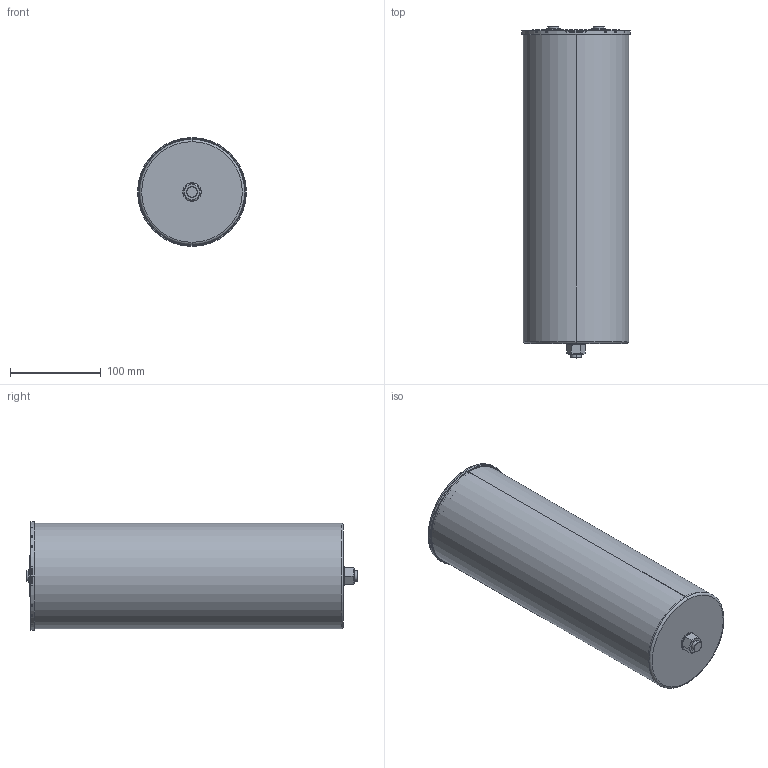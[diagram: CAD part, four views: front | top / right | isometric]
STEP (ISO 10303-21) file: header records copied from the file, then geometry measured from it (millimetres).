
FILE_DESCRIPTION (( 'STEP AP203' ), '1' );
FILE_NAME ('B25680Bx_116x345_350.STEP', '2021-09-13T07:54:06', ( '' ), ( '' ), 'SwSTEP 2.0', 'SolidWorks 2017', '' );
FILE_SCHEMA (( 'CONFIG_CONTROL_DESIGN' ));
Length unit declared in the file: millimetre
Products named in the file (1): B25680Bx_116x345_350
Bounding box: 120 x 366 x 120 mm (x, y, z)
Volume: 180002.1 mm3; surface area: 321220.5 mm2
Topology: 1 solids, 7 shells, 385 faces, 908 edges, 572 vertices
Faces by surface type: plane 153, cylinder 142, torus 42, cone 36, bspline 12
Entity records: 12405 total; most frequent: CARTESIAN_POINT 3162, DIRECTION 2092, ORIENTED_EDGE 1808, EDGE_CURVE 904, AXIS2_PLACEMENT_3D 850, VERTEX_POINT 572, CIRCLE 476, EDGE_LOOP 436
